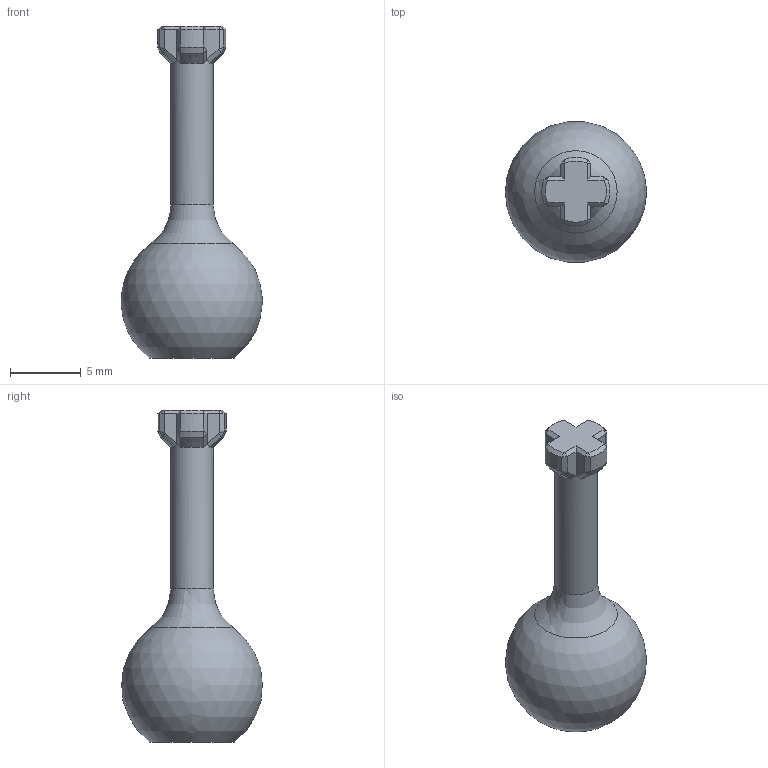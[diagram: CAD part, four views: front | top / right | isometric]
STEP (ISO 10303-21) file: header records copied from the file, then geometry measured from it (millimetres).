
FILE_DESCRIPTION(/* description */ (''),/* implementation_level */ '2;1');
FILE_NAME(/* name */ 'Gearstick.step',/* time_stamp */ '2025-11-28T13:03:22+11:00',/* author */ (''),/* organization */ (''),/* preprocessor_version */ 'ST-DEVELOPER v20.1',/* originating_system */ 'Autodesk Translation Framework v14.4.0.0',/* authorisation */ '');
FILE_SCHEMA (('AUTOMOTIVE_DESIGN { 1 0 10303 214 3 1 1 }'));
Length unit declared in the file: millimetre
Products named in the file (1): Gearstick
Bounding box: 9.99 x 9.93 x 23.46 mm (x, y, z)
Volume: 635.4 mm3; surface area: 472.3 mm2
Topology: 1 solids, 1 shells, 69 faces, 145 edges, 78 vertices
Faces by surface type: plane 40, cone 12, bspline 10, cylinder 5, torus 1, sphere 1
Full cylindrical faces by diameter (mm): 3 x1
Entity records: 2034 total; most frequent: CARTESIAN_POINT 693, ORIENTED_EDGE 290, DIRECTION 235, EDGE_CURVE 145, AXIS2_PLACEMENT_3D 86, VERTEX_POINT 78, FACE_OUTER_BOUND 69, EDGE_LOOP 69
